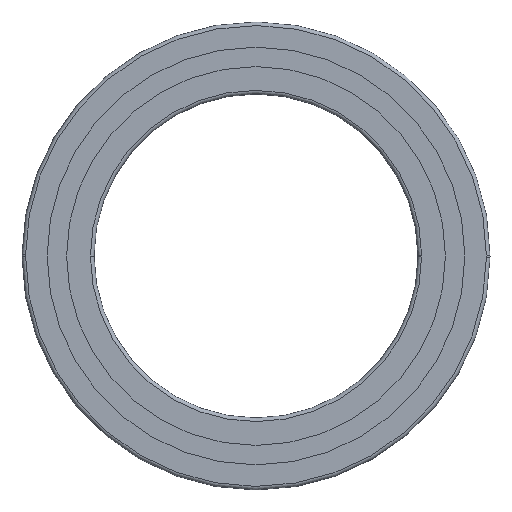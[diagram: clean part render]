
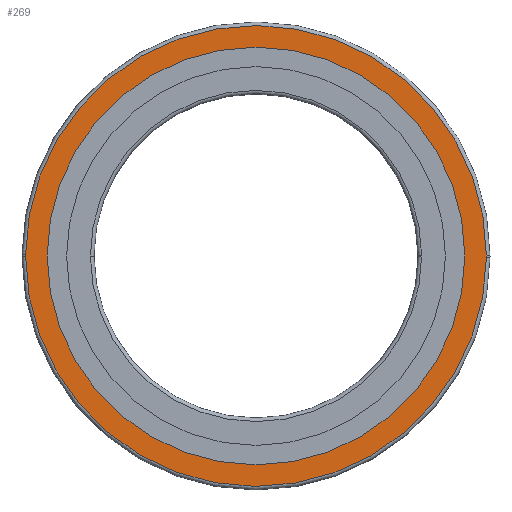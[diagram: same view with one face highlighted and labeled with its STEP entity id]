
A CAD part, front view. The second image highlights one B-rep face of the part: STEP entity #269.
In plain terms, the highlighted planar face has unit normal (0, -1, 0).
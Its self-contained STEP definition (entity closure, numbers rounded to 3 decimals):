
#239=EDGE_CURVE('',#587,#435,#640,.T.);
#241=VERTEX_POINT('',#642);
#261=EDGE_CURVE('',#419,#519,#664,.T.);
#269=ADVANCED_FACE('',(#674,#675),#676,.F.);
#309=VERTEX_POINT('',#720);
#343=EDGE_CURVE('',#519,#419,#757,.T.);
#359=EDGE_CURVE('',#435,#241,#776,.T.);
#419=VERTEX_POINT('',#843);
#435=VERTEX_POINT('',#862);
#487=EDGE_CURVE('',#241,#309,#921,.T.);
#511=EDGE_CURVE('',#309,#587,#949,.T.);
#519=VERTEX_POINT('',#957);
#587=VERTEX_POINT('',#1035);
#640=CIRCLE('',#1086,64.0);
#642=CARTESIAN_POINT('',(63.999,0.0,-0.397));
#664=CIRCLE('',#1116,58.0);
#674=FACE_OUTER_BOUND('',#1125,.T.);
#675=FACE_BOUND('',#1126,.T.);
#676=PLANE('',#1127);
#720=CARTESIAN_POINT('',(64.0,0.0,0.0));
#757=CIRCLE('',#1224,58.0);
#776=CIRCLE('',#1248,64.0);
#843=CARTESIAN_POINT('',(58.0,0.0,0.0));
#862=CARTESIAN_POINT('',(-64.0,0.0,0.0));
#921=CIRCLE('',#1428,64.0);
#949=CIRCLE('',#1463,64.0);
#957=CARTESIAN_POINT('',(-58.0,0.0,0.0));
#1035=CARTESIAN_POINT('',(-63.999,0.0,0.397));
#1086=AXIS2_PLACEMENT_3D('',#1609,#1610,#1611);
#1116=AXIS2_PLACEMENT_3D('',#1638,#1639,#1640);
#1125=EDGE_LOOP('',(#1651,#1652,#1653,#1654));
#1126=EDGE_LOOP('',(#1655,#1656));
#1127=AXIS2_PLACEMENT_3D('',#1657,#1658,#1659);
#1224=AXIS2_PLACEMENT_3D('',#1750,#1751,#1752);
#1248=AXIS2_PLACEMENT_3D('',#1776,#1777,#1778);
#1428=AXIS2_PLACEMENT_3D('',#2000,#2001,#2002);
#1463=AXIS2_PLACEMENT_3D('',#2040,#2041,#2042);
#1609=CARTESIAN_POINT('',(0.0,0.0,0.0));
#1610=DIRECTION('',(0.0,-1.0,0.0));
#1611=DIRECTION('',(1.0,0.0,0.0));
#1638=CARTESIAN_POINT('',(0.0,0.0,0.0));
#1639=DIRECTION('',(0.0,-1.0,0.0));
#1640=DIRECTION('',(1.0,0.0,0.0));
#1651=ORIENTED_EDGE('',*,*,#511,.T.);
#1652=ORIENTED_EDGE('',*,*,#239,.T.);
#1653=ORIENTED_EDGE('',*,*,#359,.T.);
#1654=ORIENTED_EDGE('',*,*,#487,.T.);
#1655=ORIENTED_EDGE('',*,*,#343,.F.);
#1656=ORIENTED_EDGE('',*,*,#261,.F.);
#1657=CARTESIAN_POINT('',(0.0,0.0,0.0));
#1658=DIRECTION('',(0.0,1.0,0.0));
#1659=DIRECTION('',(1.0,0.0,-0.0));
#1750=CARTESIAN_POINT('',(0.0,0.0,0.0));
#1751=DIRECTION('',(0.0,-1.0,0.0));
#1752=DIRECTION('',(-1.0,0.0,0.0));
#1776=CARTESIAN_POINT('',(0.0,0.0,0.0));
#1777=DIRECTION('',(0.0,-1.0,0.0));
#1778=DIRECTION('',(-1.0,0.0,0.0));
#2000=CARTESIAN_POINT('',(0.0,0.0,0.0));
#2001=DIRECTION('',(0.0,-1.0,0.0));
#2002=DIRECTION('',(-1.0,0.0,0.0));
#2040=CARTESIAN_POINT('',(0.0,0.0,0.0));
#2041=DIRECTION('',(0.0,-1.0,0.0));
#2042=DIRECTION('',(1.0,0.0,0.0));
